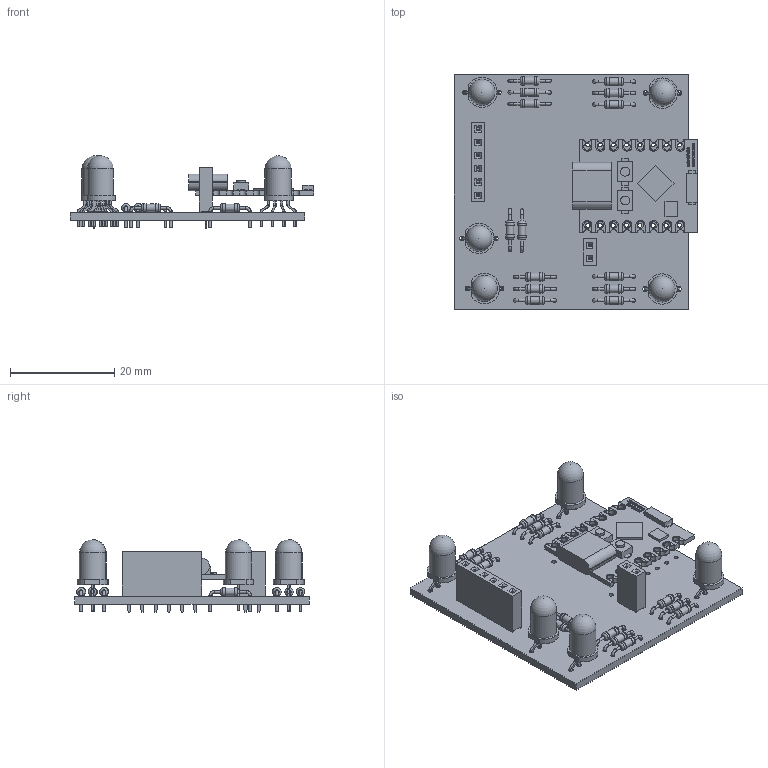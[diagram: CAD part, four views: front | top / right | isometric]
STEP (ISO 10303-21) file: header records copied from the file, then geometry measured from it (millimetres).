
FILE_DESCRIPTION(('KiCad electronic assembly'),'2;1');
FILE_NAME('led_pcb.step','2026-01-12T11:57:10',('Pcbnew'),('Kicad'), 'Open CASCADE STEP processor 7.8','KiCad to STEP converter','Unknown' );
FILE_SCHEMA(('AUTOMOTIVE_DESIGN { 1 0 10303 214 1 1 1 1 }'));
Length unit declared in the file: millimetre
Products named in the file (9): led_pcb 1; R_Axial_DIN0204_L3.6mm_D1.6mm_P7.62mm_Horizontal; PinSocket_1x06_P2.54mm_Vertical; LED_D5.0mm-4_RGB_Wide_Pins; ESP32-C3 supermini v5; Component1; COMPOUND; PinSocket_1x02_P2.54mm_Vertical; led_pcb_PCB
Assembly tree (25 placements, depth 3):
  led_pcb 1
    R_Axial_DIN0204_L3.6mm_D1.6mm_P7.62mm_Horizontal  x14
    PinSocket_1x06_P2.54mm_Vertical
    LED_D5.0mm-4_RGB_Wide_Pins  x5
    ESP32-C3 supermini v5
      Component1
      COMPOUND
    PinSocket_1x02_P2.54mm_Vertical
    led_pcb_PCB
Bounding box: 46.77 x 45 x 13.9 mm (x, y, z)
Volume: 4952.1 mm3; surface area: 8347 mm2
Topology: 103 solids, 103 shells, 1820 faces, 4190 edges, 2648 vertices
Faces by surface type: plane 1139, cylinder 426, bspline 194, torus 56, sphere 5
Full cylindrical faces by diameter (mm): 0.5 x56, 0.7 x28, 0.8 x16, 0.9 x20, 1 x8, 1.27 x48, 1.44 x14, 1.6 x28, 1.7 x2, 5 x5
Entity records: 42842 total; most frequent: CARTESIAN_POINT 9657, ORIENTED_EDGE 6172, DIRECTION 5342, EDGE_CURVE 3086, LINE 2164, VECTOR 2164, VERTEX_POINT 2024, AXIS2_PLACEMENT_3D 1589
